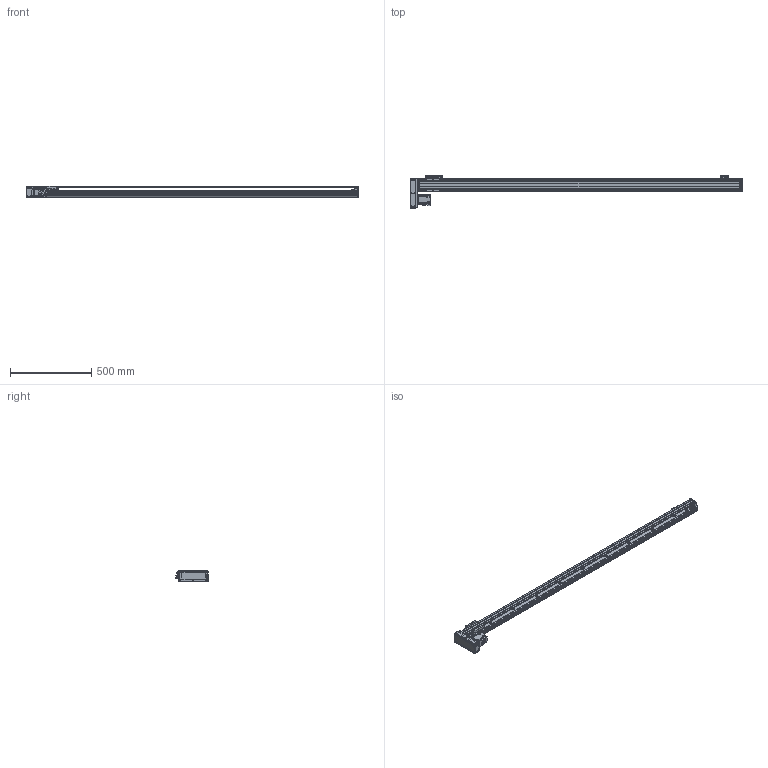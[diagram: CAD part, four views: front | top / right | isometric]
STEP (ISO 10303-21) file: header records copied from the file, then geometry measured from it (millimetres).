
FILE_DESCRIPTION(/* description */ (''),/* implementation_level */ '2;1');
FILE_NAME(/* name */ '\\192.168.0.160\disk1\HAN SHIN Master\B-설계부문\C-표준\B-2024년\BC02-표준도면\+로봇 개선표준도면\표준 승인도 작업 폴더\3D\HG75\HG75병렬\우병렬\HG75-R20-N1B-1800-L10.stp',/* time_stamp */ '2024-02-02T14:52:03+09:00',/* author */ ('User'),/* organization */ (''),/* preprocessor_version */ 'ST-DEVELOPER v18.1',/* originating_system */ 'Autodesk Inventor 2022',/* authorisation */ '');
FILE_SCHEMA (('AUTOMOTIVE_DESIGN { 1 0 10303 214 3 1 1 }'));
Products named in the file (25): HG75-L20-N1B-0500-R10 - 간소화; BASE; HR75 FRONT BLOCK; HR75 REAR COVER-TENTION; HR75 TENSION REAR BLOCK; HG3UPCOV001; H 15F_BLOCK; HG90STOPPER - 20L; HG90STOPPER - 27L; MOTOR PLATE-200W(MITSUBISHI); 화살표; hg-kr23_; M-5HL-4; HR75 W TABLE; LMKE1520 NUT; HR75-LR-BELT COVER(200W); HR75-BELT COVER-COVER2; HR75-BELT COVER-COVER; HR65-BELT COVER-COVER3; HC75-LR-MOTOR PLATE(200W)-사출_MIR; HR65,75 SENSOR DOG; NIPPLE CAP(신규); hsr_ftht_A-M6F_grease_nipple_joint; EE_SX674A; SENSOR BRK(EE-SX674A)
Assembly tree (32 placements, depth 2):
  HG75-L20-N1B-0500-R10 - 간소화
    BASE
    HR75 FRONT BLOCK
    HR75 REAR COVER-TENTION
    HR75 TENSION REAR BLOCK
    HG3UPCOV001
    H 15F_BLOCK
    HG90STOPPER - 20L
    HG90STOPPER - 27L
    MOTOR PLATE-200W(MITSUBISHI)
    화살표  x2
    hg-kr23_
    M-5HL-4
    HR75 W TABLE
    LMKE1520 NUT
    SENSOR BRK(EE-SX674A)  x3
    EE_SX674A  x3
    HR75-LR-BELT COVER(200W)
    HR75-BELT COVER-COVER2
    HR75-BELT COVER-COVER
    HR65-BELT COVER-COVER3  x2
    HC75-LR-MOTOR PLATE(200W)-사출_MIR
    HR65,75 SENSOR DOG
    NIPPLE CAP(신규)  x2
    hsr_ftht_A-M6F_grease_nipple_joint  x2
Bounding box: 2039 x 199 x 73 mm (x, y, z)
Volume: 2787886.1 mm3; surface area: 1311333.6 mm2
Topology: 32 solids, 32 shells, 3148 faces, 8663 edges, 5723 vertices
Faces by surface type: plane 2267, cylinder 696, cone 141, sphere 24, torus 12, bspline 8
Full cylindrical faces by diameter (mm): 1.8 x1, 2 x4, 2.013 x2, 2.459 x16, 2.5 x2, 3 x8, 3.242 x56, 3.4 x20, 3.5 x6, 4.134 x56, 4.5 x22, 4.917 x5, 5 x31, 5.5 x40, 5.6 x10, 5.8 x4, 5.9 x8, 6 x6, 6.5 x5, 7 x1, 8 x1, 9.5 x36, 14 x1, 15 x3, 17 x1, 20 x1, 25 x2, 28 x1, 32 x2, 33.7 x1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
Entity records: 94717 total; most frequent: CARTESIAN_POINT 17087, ORIENTED_EDGE 15700, DIRECTION 15011, EDGE_CURVE 7850, LINE 6295, VECTOR 6295, VERTEX_POINT 5224, AXIS2_PLACEMENT_3D 4358
